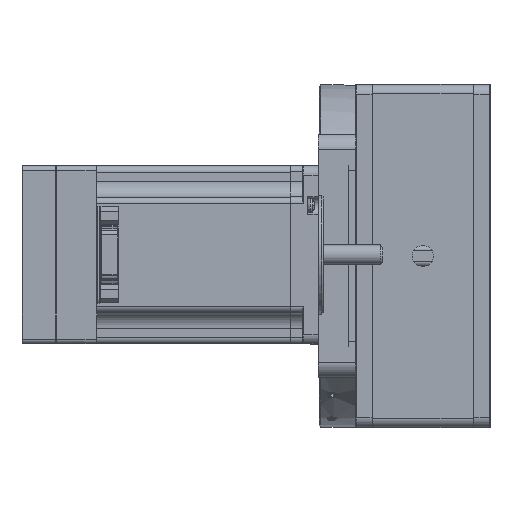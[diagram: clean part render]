
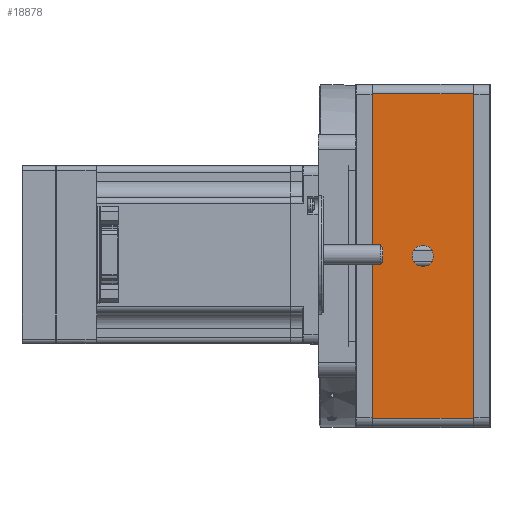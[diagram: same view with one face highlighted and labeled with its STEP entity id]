
A CAD part, left-side view. The second image highlights one B-rep face of the part: STEP entity #18878.
In plain terms, the highlighted planar face has unit normal (-1, 0, 0).
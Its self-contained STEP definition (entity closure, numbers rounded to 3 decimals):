
#197 = CIRCLE ( 'NONE', #22488, 3.4 ) ;
#952 = ORIENTED_EDGE ( 'NONE', *, *, #55799, .F. ) ;
#1345 = DIRECTION ( 'NONE',  ( 0., -1., 0. ) ) ;
#2513 = CARTESIAN_POINT ( 'NONE',  ( -143., 43., 52. ) ) ;
#5012 = LINE ( 'NONE', #22484, #65165 ) ;
#7172 = ORIENTED_EDGE ( 'NONE', *, *, #39845, .T. ) ;
#7951 = DIRECTION ( 'NONE',  ( 0., 0., -1. ) ) ;
#10180 = CARTESIAN_POINT ( 'NONE',  ( -143., 21.5, 3.4 ) ) ;
#11608 = EDGE_LOOP ( 'NONE', ( #22785 ) ) ;
#14204 = DIRECTION ( 'NONE',  ( 0., 0., 1. ) ) ;
#15690 = LINE ( 'NONE', #39266, #53052 ) ;
#16003 = VERTEX_POINT ( 'NONE', #10180 ) ;
#16563 = FACE_BOUND ( 'NONE', #11608, .T. ) ;
#16572 = VECTOR ( 'NONE', #1345, 1000. ) ;
#18878 = ADVANCED_FACE ( 'NONE', ( #16563, #70636 ), #28179, .F. ) ;
#20021 = LINE ( 'NONE', #2513, #42969 ) ;
#22484 = CARTESIAN_POINT ( 'NONE',  ( -143., 37.6, -55. ) ) ;
#22488 = AXIS2_PLACEMENT_3D ( 'NONE', #32729, #66400, #14204 ) ;
#22785 = ORIENTED_EDGE ( 'NONE', *, *, #25297, .F. ) ;
#23504 = CARTESIAN_POINT ( 'NONE',  ( -143., 5.4, 52. ) ) ;
#25297 = EDGE_CURVE ( 'NONE', #16003, #16003, #197, .T. ) ;
#28179 = PLANE ( 'NONE',  #31476 ) ;
#28456 = ORIENTED_EDGE ( 'NONE', *, *, #60382, .F. ) ;
#29449 = VERTEX_POINT ( 'NONE', #30357 ) ;
#30357 = CARTESIAN_POINT ( 'NONE',  ( -143., 5.4, -52. ) ) ;
#30767 = LINE ( 'NONE', #46962, #16572 ) ;
#31476 = AXIS2_PLACEMENT_3D ( 'NONE', #66769, #42413, #7951 ) ;
#32729 = CARTESIAN_POINT ( 'NONE',  ( -143., 21.5, 0. ) ) ;
#36140 = ORIENTED_EDGE ( 'NONE', *, *, #74287, .T. ) ;
#37717 = DIRECTION ( 'NONE',  ( 0., 1., 0. ) ) ;
#39266 = CARTESIAN_POINT ( 'NONE',  ( -143., 5.4, -55. ) ) ;
#39845 = EDGE_CURVE ( 'NONE', #42524, #73291, #20021, .T. ) ;
#42413 = DIRECTION ( 'NONE',  ( 1., 0., 0. ) ) ;
#42524 = VERTEX_POINT ( 'NONE', #23504 ) ;
#42542 = EDGE_LOOP ( 'NONE', ( #952, #7172, #28456, #36140 ) ) ;
#42969 = VECTOR ( 'NONE', #37717, 1000. ) ;
#46962 = CARTESIAN_POINT ( 'NONE',  ( -143., 43., -52. ) ) ;
#51153 = CARTESIAN_POINT ( 'NONE',  ( -143., 37.6, 52. ) ) ;
#53052 = VECTOR ( 'NONE', #74424, 1000. ) ;
#55799 = EDGE_CURVE ( 'NONE', #42524, #29449, #15690, .T. ) ;
#57173 = DIRECTION ( 'NONE',  ( 0., 0., 1. ) ) ;
#57749 = VERTEX_POINT ( 'NONE', #66281 ) ;
#60382 = EDGE_CURVE ( 'NONE', #57749, #73291, #5012, .T. ) ;
#65165 = VECTOR ( 'NONE', #57173, 1000. ) ;
#66281 = CARTESIAN_POINT ( 'NONE',  ( -143., 37.6, -52. ) ) ;
#66400 = DIRECTION ( 'NONE',  ( -1., 0., 0. ) ) ;
#66769 = CARTESIAN_POINT ( 'NONE',  ( -143., 43., -55. ) ) ;
#70636 = FACE_OUTER_BOUND ( 'NONE', #42542, .T. ) ;
#73291 = VERTEX_POINT ( 'NONE', #51153 ) ;
#74287 = EDGE_CURVE ( 'NONE', #57749, #29449, #30767, .T. ) ;
#74424 = DIRECTION ( 'NONE',  ( 0., 0., -1. ) ) ;
